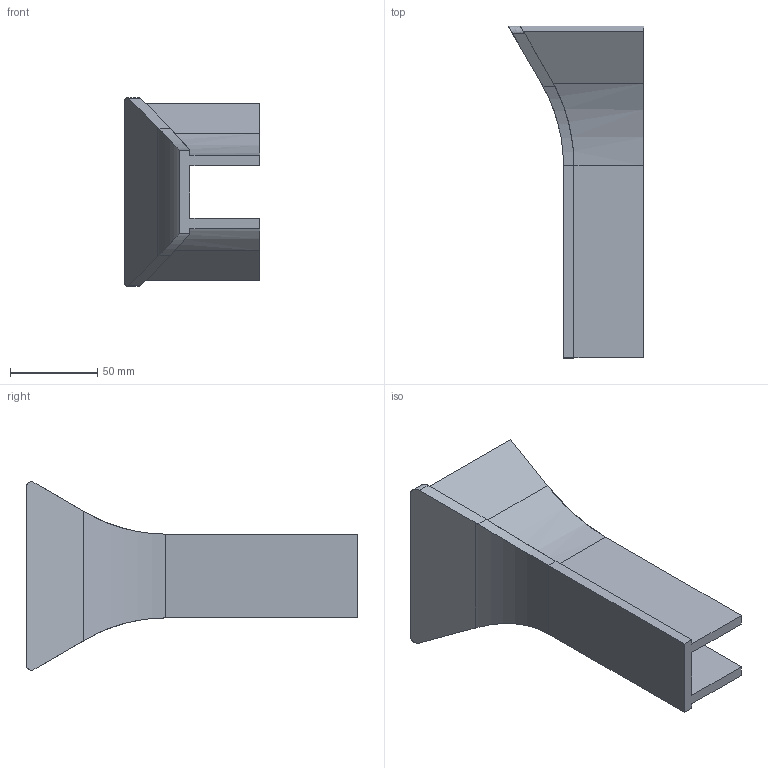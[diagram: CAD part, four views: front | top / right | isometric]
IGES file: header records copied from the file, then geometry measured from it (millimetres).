
Global section: file name: E:\UnigraphicsGraphicData\MISUMI_PRESS-PARTS\IGES\3d_cilg-110-40-30_00264_r00.igs; native system: NX V5.0; preprocessor: UGS NX IGES V5.0; author: MISUMI; date: 20110105.160245; units: millimetre
Bounding box: 77.65 x 190 x 107.89 mm (x, y, z)
Surface area: 62970.1 mm2 (no closed solid volume)
Topology: 0 solids, 0 shells, 38 faces, 214 edges, 214 vertices
Faces by surface type: bspline 38
